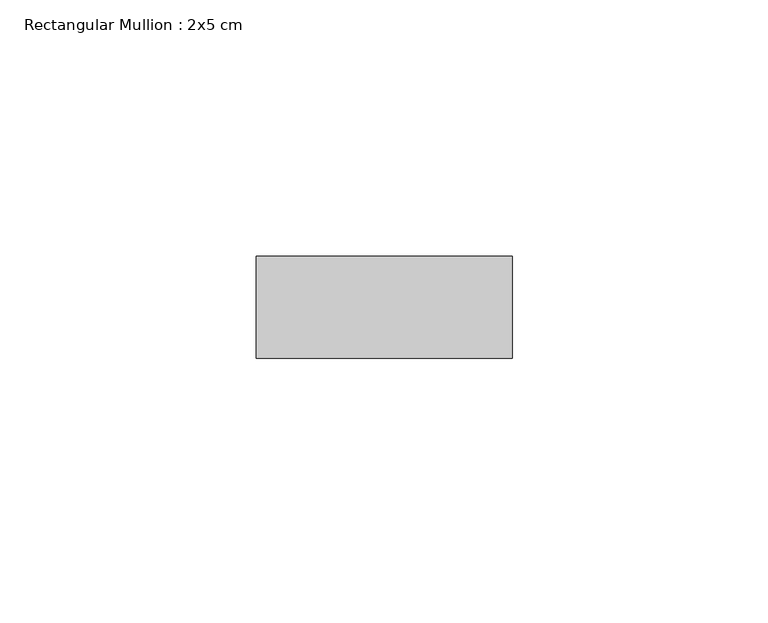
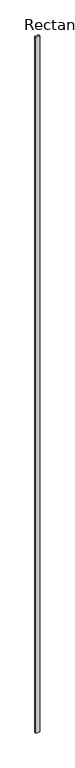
"""IFC4 building model written with IfcOpenShell, lengths in millimetres: member geometry, Rectangular Mullion : 2x5 cm."""

from ifc_helpers import new_model, si_unit, frame, origin, place, context, project, spatial, polyline, outline, extrude, source, transform, mapped, element, save


def rectangular_mullion_2x5_cm_9cd8b8dd(model_context):
    return source(origin(), model_context, "Body", "SweptSolid", [
        extrude(outline(polyline([(50.0, 20.0), (50.0, 0.0), (0.0, 0.0), (0.0, 20.0), (50.0, 20.0)])), frame((0.0, 0.0, -9284.3600565), z_axis=(0.0, 0.0, 1.0), x_axis=(1.0, 0.0, 0.0)), (0.0, 0.0, 1.0), 9284.3600565),
    ])


if __name__ == "__main__":
    model = new_model("IFC4")
    model_context = context("Model", 3, world=origin())
    ifc_project = project(units=[si_unit("LENGTHUNIT", "METRE", prefix="MILLI")], contexts=[model_context])
    site = spatial("IfcSite", under=ifc_project)
    building = spatial("IfcBuilding", under=site)
    placement = place(None, origin())
    rectangular_mullion_2x5_cm_shape = rectangular_mullion_2x5_cm_9cd8b8dd(model_context)
    element("IfcMember", 1, ObjectType="Rectangular Mullion : 2x5 cm", at=placement, inside=building, context=model_context, shape_type="MappedRepresentation", body=[
        mapped(rectangular_mullion_2x5_cm_shape, transform((0.0, 0.0, 0.0), x_axis=(1.0, 0.0, 0.0), y_axis=(0.0, 1.0, 0.0), z_axis=(0.0, 0.0, 1.0))),
    ])
    save(model, "model.ifc")
